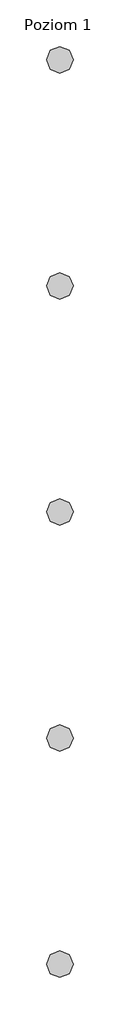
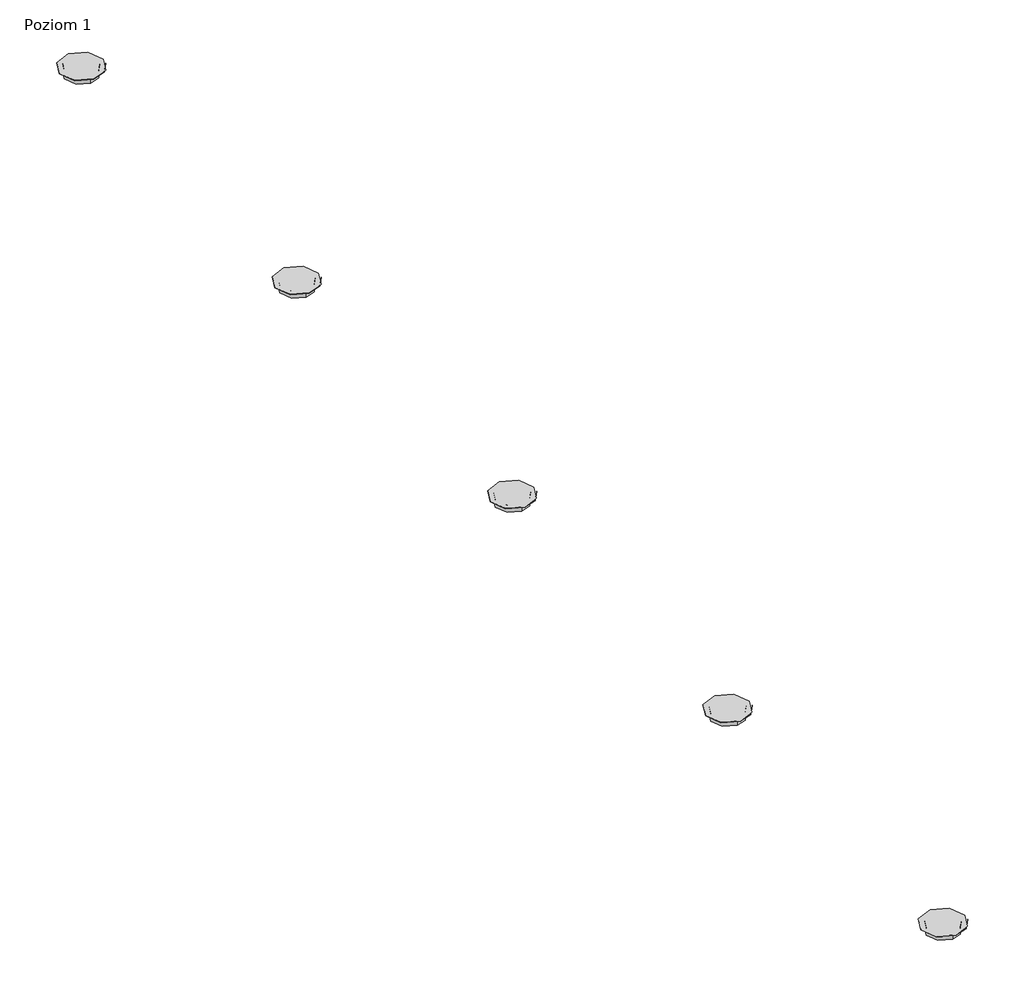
# One storey, incomplete: 5 duct fittings.
"""IFC4 building model written with IfcOpenShell, lengths in millimetres."""

import ifcopenshell
import ifcopenshell.guid

model = None  # the IFC model being written
_history = None  # IfcOwnerHistory: only IFC2X3 demands one
_inside = {}  # id of a spatial element -> (the spatial element, [elements in it])
_under = {}  # id of a project, library or spatial element -> (it, [spatial elements below it])
_declared = {}  # id of a project -> (the project, [libraries it declares])
_typed = {}  # id of a type object -> (the type object, [elements of that type])
_made_of = {}  # id of a material, layer set ... -> (it, [elements and type objects made of it])


def new_model(schema):
    """Start an empty IFC model of exactly this schema.

    Asked for "IFC4X3", IfcOpenShell would pick the latest addendum, in which some entities
    have other attributes; the version numbers below select the first issue.
    IFC2X3 requires an IfcOwnerHistory on every rooted entity: one is made here for all.
    """
    global model, _history
    if schema == "IFC4X3":
        model = ifcopenshell.file(schema_version=(4, 3, 0, 0))
    else:
        model = ifcopenshell.file(schema=schema)
    _inside.clear()
    _under.clear()
    _declared.clear()
    _typed.clear()
    _made_of.clear()
    _history = None
    if model.schema == "IFC2X3":
        org = make("IfcOrganization", Name="unknown")
        user = make(
            "IfcPersonAndOrganization",
            ThePerson=make("IfcPerson", FamilyName="unknown"),
            TheOrganization=org,
        )
        app = make(
            "IfcApplication",
            ApplicationDeveloper=org,
            Version="unknown",
            ApplicationFullName="unknown",
            ApplicationIdentifier="unknown",
        )
        _history = make(
            "IfcOwnerHistory",
            OwningUser=user,
            OwningApplication=app,
            ChangeAction="ADDED",
            CreationDate=0,
        )
    return model


def make(cls, **values):
    """One entity of the class cls with the attributes given. An attribute that is None is left unset."""
    return model.create_entity(
        cls, **{name: value for name, value in values.items() if value is not None}
    )


def rooted(cls, **values):
    """An entity with a GlobalId (a new one), such as an element, a storey or a relation."""
    return make(cls, GlobalId=ifcopenshell.guid.new(), OwnerHistory=_history, **values)


def si_unit(unit_type, name, prefix=None):
    """IfcSIUnit, for example si_unit("LENGTHUNIT", "METRE", prefix="MILLI")."""
    return make("IfcSIUnit", UnitType=unit_type, Prefix=prefix, Name=name)


def assignment(units):
    """IfcUnitAssignment: the units of a project."""
    return None if units is None else make("IfcUnitAssignment", Units=units)


def point(xyz):
    """IfcCartesianPoint."""
    return None if xyz is None else make("IfcCartesianPoint", Coordinates=xyz)


def direction(xyz):
    """IfcDirection."""
    return None if xyz is None else make("IfcDirection", DirectionRatios=xyz)


def frame(location, z_axis=None, x_axis=None):
    """IfcAxis2Placement3D, a coordinate frame: its origin and axes. An axis left out is left unset."""
    return make(
        "IfcAxis2Placement3D",
        Location=point(location),
        Axis=direction(z_axis),
        RefDirection=direction(x_axis),
    )


def frame_2d(location, x_axis=None):
    """IfcAxis2Placement2D, a coordinate frame in the plane: its origin and x axis."""
    return make(
        "IfcAxis2Placement2D", Location=point(location), RefDirection=direction(x_axis)
    )


def origin():
    """The frame at (0, 0, 0) with its axes left unset."""
    return frame((0.0, 0.0, 0.0))


def origin_2d():
    """The frame at (0, 0) in the plane with its x axis left unset."""
    return frame_2d((0.0, 0.0))


def place(relative_to, where):
    """IfcLocalPlacement: puts the frame where relative to a parent placement (None: the world)."""
    return make(
        "IfcLocalPlacement", PlacementRelTo=relative_to, RelativePlacement=where
    )


def context(
    kind, dimensions, precision=None, world=None, true_north=None, identifier=None
):
    """IfcGeometricRepresentationContext, for example the 3D "Model" context."""
    return make(
        "IfcGeometricRepresentationContext",
        ContextIdentifier=identifier,
        ContextType=kind,
        CoordinateSpaceDimension=dimensions,
        Precision=precision,
        WorldCoordinateSystem=world,
        TrueNorth=true_north,
    )


def project(units=None, contexts=None):
    """IfcProject with its units and contexts."""
    return rooted(
        "IfcProject",
        Name="project",
        RepresentationContexts=contexts,
        UnitsInContext=assignment(units),
    )


def spatial(cls, under=None, at=None, **own):
    """A site, building, storey or space (cls), placed at a placement, below another one or the project."""
    s = rooted(cls, ObjectPlacement=at, **own)
    if under is not None:
        _under.setdefault(under.id(), (under, []))[1].append(s)
    return s


def circle_curve(where, radius):
    """IfcCircle in the frame where."""
    return make("IfcCircle", Position=where, Radius=radius)


def trimmed(basis, trim1, trim2, sense, master):
    """IfcTrimmedCurve: the piece of a basis curve between two trims."""
    return make(
        "IfcTrimmedCurve",
        BasisCurve=basis,
        Trim1=trim1,
        Trim2=trim2,
        SenseAgreement=sense,
        MasterRepresentation=master,
    )


def segment(curve, same_sense, transition):
    """IfcCompositeCurveSegment."""
    return make(
        "IfcCompositeCurveSegment",
        Transition=transition,
        SameSense=same_sense,
        ParentCurve=curve,
    )


def composite_curve(segments, self_intersect=None):
    """IfcCompositeCurve: segments joined end to end."""
    return make("IfcCompositeCurve", Segments=segments, SelfIntersect=self_intersect)


def outline(outer, holes=None, kind="AREA"):
    """IfcArbitraryClosedProfileDef: a profile drawn as a closed curve; with holes, ...WithVoids."""
    if holes is None:
        return make("IfcArbitraryClosedProfileDef", ProfileType=kind, OuterCurve=outer)
    return make(
        "IfcArbitraryProfileDefWithVoids",
        ProfileType=kind,
        OuterCurve=outer,
        InnerCurves=holes,
    )


def extrude(swept, where, along, depth):
    """IfcExtrudedAreaSolid: the profile swept, set in the frame where, extruded along a direction by depth."""
    return make(
        "IfcExtrudedAreaSolid",
        SweptArea=swept,
        Position=where,
        ExtrudedDirection=direction(along),
        Depth=depth,
    )


def shape(context_of_items, identifier, shape_type, items):
    """IfcShapeRepresentation: the items that make up one representation, for example the "Body"."""
    return make(
        "IfcShapeRepresentation",
        ContextOfItems=context_of_items,
        RepresentationIdentifier=identifier,
        RepresentationType=shape_type,
        Items=items,
    )


def source(mapping_origin, context_of_items, identifier, shape_type, items):
    """IfcRepresentationMap: a shape defined once, which mapped items show again and again."""
    return make(
        "IfcRepresentationMap",
        MappingOrigin=mapping_origin,
        MappedRepresentation=shape(context_of_items, identifier, shape_type, items),
    )


def transform(
    local_origin,
    x_axis=None,
    y_axis=None,
    z_axis=None,
    scale=None,
    scale2=None,
    scale3=None,
    uniform=True,
):
    """IfcCartesianTransformationOperator3D, or its non-uniform kind. x_axis, y_axis, z_axis: its Axis1, 2, 3."""
    if uniform:
        return make(
            "IfcCartesianTransformationOperator3D",
            Axis1=direction(x_axis),
            Axis2=direction(y_axis),
            LocalOrigin=point(local_origin),
            Scale=scale,
            Axis3=direction(z_axis),
        )
    return make(
        "IfcCartesianTransformationOperator3DnonUniform",
        Axis1=direction(x_axis),
        Axis2=direction(y_axis),
        LocalOrigin=point(local_origin),
        Scale=scale,
        Axis3=direction(z_axis),
        Scale2=scale2,
        Scale3=scale3,
    )


def mapped(mapping_source, mapping_target):
    """IfcMappedItem: shows the shape of a source again, moved by a transform."""
    return make(
        "IfcMappedItem", MappingSource=mapping_source, MappingTarget=mapping_target
    )


def made_of(thing, what):
    """Note that an element or type object is made of a material, layer set ...; save() writes the relation."""
    if what is not None:
        _made_of.setdefault(what.id(), (what, []))[1].append(thing)
    return thing


def element(
    cls,
    number,
    at=None,
    inside=None,
    cuts=None,
    type_object=None,
    material=None,
    context=None,
    identifier="Body",
    shape_type=None,
    held_by="IfcProductDefinitionShape",
    body=None,
    shapes=None,
    **own,
):
    """One element of the class cls, such as IfcWall. Its Tag is "e" and its number.

    at: its placement. inside: the storey or other place that contains it. cuts: it is an
    opening in that element (IfcRelVoidsElement). A single representation is given by context,
    identifier, shape_type and body (its items); several are given by shapes. held_by: the class
    of the entity that holds the representations. save() writes the other relations.
    """
    e = rooted(cls, Tag="e%d" % number, ObjectPlacement=at, **own)
    if body is not None:
        shapes = [shape(context, identifier, shape_type, body)]
    if shapes is not None:
        e.Representation = make(held_by, Representations=shapes)
    if inside is not None:
        _inside.setdefault(inside.id(), (inside, []))[1].append(e)
    if cuts is not None:
        rooted(
            "IfcRelVoidsElement", RelatingBuildingElement=cuts, RelatedOpeningElement=e
        )
    if type_object is not None:
        _typed.setdefault(type_object.id(), (type_object, []))[1].append(e)
    return made_of(e, material)


def aggregate(whole, parts):
    """IfcRelAggregates: a whole, such as a stair, and the parts it consists of."""
    return rooted("IfcRelAggregates", RelatingObject=whole, RelatedObjects=parts)


def save(model, path):
    """Write the relations noted so far, then the file.

    IfcRelAggregates (storeys below a building ...), IfcRelContainedInSpatialStructure (elements
    in a storey), IfcRelDefinesByType, IfcRelAssociatesMaterial and IfcRelDeclares: one each for
    every whole, place, type object, material and project.
    """
    for whole, parts in _under.values():
        aggregate(whole, parts)
    for where, things in _inside.values():
        rooted(
            "IfcRelContainedInSpatialStructure",
            RelatedElements=things,
            RelatingStructure=where,
        )
    for kind, things in _typed.values():
        rooted("IfcRelDefinesByType", RelatedObjects=things, RelatingType=kind)
    for what, things in _made_of.values():
        rooted("IfcRelAssociatesMaterial", RelatedObjects=things, RelatingMaterial=what)
    for by, libraries in _declared.values():
        rooted("IfcRelDeclares", RelatingContext=by, RelatedDefinitions=libraries)
    model.write(path)


def duct_fitting_180_5dd8c60e(model_context):
    return source(origin(), model_context, "Body", "SweptSolid", [
        extrude(outline(composite_curve([segment(trimmed(circle_curve(origin_2d(), 89.5), [point((0.0, -89.5))], [point((0.0, 89.5))], False, "CARTESIAN"), True, "CONTINUOUS"), segment(trimmed(circle_curve(origin_2d(), 89.5), [point((0.0, 89.5))], [point((0.0, -89.5))], False, "CARTESIAN"), True, "CONTINUOUS")], self_intersect=False)), frame((0.0, 0.0, -40.0), z_axis=(0.0, 0.0, 1.0), x_axis=(1.0, 0.0, 0.0)), (0.0, 0.0, 1.0), 39.0),
        extrude(outline(composite_curve([segment(trimmed(circle_curve(origin_2d(), 117.5), [point((0.0, -117.5))], [point((0.0, 117.5))], False, "CARTESIAN"), True, "CONTINUOUS"), segment(trimmed(circle_curve(origin_2d(), 117.5), [point((0.0, 117.5))], [point((0.0, -117.5))], False, "CARTESIAN"), True, "CONTINUOUS")], self_intersect=False)), frame((0.0, 0.0, -1.0), z_axis=(0.0, 0.0, 1.0), x_axis=(1.0, 0.0, 0.0)), (0.0, 0.0, 1.0), 1.0),
    ])


model = new_model("IFC4")

# Units and contexts
model_context = context("Model", 3, world=origin())
ifc_project = project(units=[si_unit("LENGTHUNIT", "METRE", prefix="MILLI")], contexts=[model_context])

# Site, building, storey
site = spatial("IfcSite", under=ifc_project)
building = spatial("IfcBuilding", under=site)
storey = spatial("IfcBuildingStorey", under=building, Name="Poziom 1", Elevation=0.0)

# Duct fittings
placement = place(None, origin())
duct_fitting_180_shape = duct_fitting_180_5dd8c60e(model_context)
element("IfcDuctFitting", 1, ObjectType="VE-Zagnieżdżone-Akcesorium-ParaForma-Harmann-DAF-Króciec_Przyłączeniowy : 180", at=placement, inside=storey, context=model_context, shape_type="MappedRepresentation", body=[
    mapped(duct_fitting_180_shape, transform((4582.5, 3000.0, 0.0), x_axis=(1.0, 0.0, 0.0), y_axis=(0.0, 1.0, 0.0), z_axis=(0.0, 0.0, 1.0))),
])
element("IfcDuctFitting", 2, ObjectType="VE-Zagnieżdżone-Akcesorium-ParaForma-Harmann-DAF-Króciec_Przyłączeniowy : 180", at=placement, inside=storey, context=model_context, shape_type="MappedRepresentation", body=[
    mapped(duct_fitting_180_shape, transform((4582.5, 5000.0, 0.0), x_axis=(1.0, 0.0, 0.0), y_axis=(0.0, 1.0, 0.0), z_axis=(0.0, 0.0, 1.0))),
])
element("IfcDuctFitting", 3, ObjectType="VE-Zagnieżdżone-Akcesorium-ParaForma-Harmann-DAF-Króciec_Przyłączeniowy : 180", at=placement, inside=storey, context=model_context, shape_type="MappedRepresentation", body=[
    mapped(duct_fitting_180_shape, transform((4582.5, 1000.0, 0.0), x_axis=(1.0, 0.0, 0.0), y_axis=(0.0, 1.0, 0.0), z_axis=(0.0, 0.0, 1.0))),
])
element("IfcDuctFitting", 4, ObjectType="VE-Zagnieżdżone-Akcesorium-ParaForma-Harmann-DAF-Króciec_Przyłączeniowy : 180", at=placement, inside=storey, context=model_context, shape_type="MappedRepresentation", body=[
    mapped(duct_fitting_180_shape, transform((4582.5, 7000.0, 0.0), x_axis=(1.0, 0.0, 0.0), y_axis=(0.0, 1.0, 0.0), z_axis=(0.0, 0.0, 1.0))),
])
element("IfcDuctFitting", 5, ObjectType="VE-Zagnieżdżone-Akcesorium-ParaForma-Harmann-DAF-Króciec_Przyłączeniowy : 180", at=placement, inside=storey, context=model_context, shape_type="MappedRepresentation", body=[
    mapped(duct_fitting_180_shape, transform((4582.5, 9000.0, 0.0), x_axis=(1.0, 0.0, 0.0), y_axis=(0.0, 1.0, 0.0), z_axis=(0.0, 0.0, 1.0))),
])

save(model, "model.ifc")
